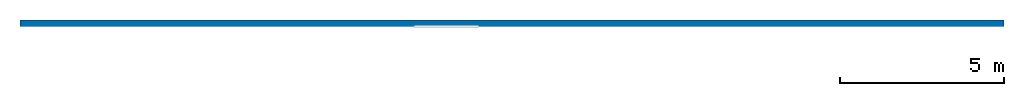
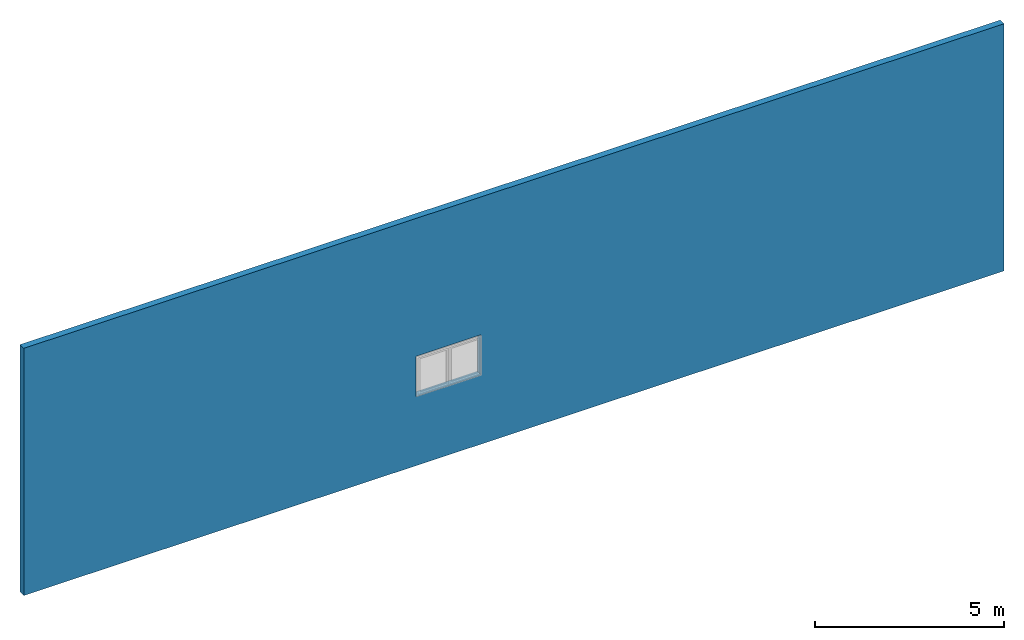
# One storey, part 1 of 2: 1 wall, 1 opening.
"""IFC2X3 building model written with IfcOpenShell, lengths in millimetres."""

import ifcopenshell
import ifcopenshell.guid

model = None  # the IFC model being written
_history = None  # IfcOwnerHistory: only IFC2X3 demands one
_inside = {}  # id of a spatial element -> (the spatial element, [elements in it])
_under = {}  # id of a project, library or spatial element -> (it, [spatial elements below it])
_declared = {}  # id of a project -> (the project, [libraries it declares])
_typed = {}  # id of a type object -> (the type object, [elements of that type])
_made_of = {}  # id of a material, layer set ... -> (it, [elements and type objects made of it])


def new_model(schema):
    """Start an empty IFC model of exactly this schema.

    Asked for "IFC4X3", IfcOpenShell would pick the latest addendum, in which some entities
    have other attributes; the version numbers below select the first issue.
    IFC2X3 requires an IfcOwnerHistory on every rooted entity: one is made here for all.
    """
    global model, _history
    if schema == "IFC4X3":
        model = ifcopenshell.file(schema_version=(4, 3, 0, 0))
    else:
        model = ifcopenshell.file(schema=schema)
    _inside.clear()
    _under.clear()
    _declared.clear()
    _typed.clear()
    _made_of.clear()
    _history = None
    if model.schema == "IFC2X3":
        org = make("IfcOrganization", Name="unknown")
        user = make(
            "IfcPersonAndOrganization",
            ThePerson=make("IfcPerson", FamilyName="unknown"),
            TheOrganization=org,
        )
        app = make(
            "IfcApplication",
            ApplicationDeveloper=org,
            Version="unknown",
            ApplicationFullName="unknown",
            ApplicationIdentifier="unknown",
        )
        _history = make(
            "IfcOwnerHistory",
            OwningUser=user,
            OwningApplication=app,
            ChangeAction="ADDED",
            CreationDate=0,
        )
    return model


def make(cls, **values):
    """One entity of the class cls with the attributes given. An attribute that is None is left unset."""
    return model.create_entity(
        cls, **{name: value for name, value in values.items() if value is not None}
    )


def entity(cls, *values):
    """Any entity or typed value of the class cls, its attributes in the order of the schema. None: left unset."""
    e = model.create_entity(cls)
    for i, value in enumerate(values):
        if value is not None:
            e[i] = value
    return e


def rooted(cls, **values):
    """An entity with a GlobalId (a new one), such as an element, a storey or a relation."""
    return make(cls, GlobalId=ifcopenshell.guid.new(), OwnerHistory=_history, **values)


def si_unit(unit_type, name, prefix=None):
    """IfcSIUnit, for example si_unit("LENGTHUNIT", "METRE", prefix="MILLI")."""
    return make("IfcSIUnit", UnitType=unit_type, Prefix=prefix, Name=name)


def converted_unit(unit_type, name, factor, base, dimensions=None, offset=None):
    """IfcConversionBasedUnit, such as the inch: factor (a typed value) times the base unit."""
    return make(
        "IfcConversionBasedUnit"
        if offset is None
        else "IfcConversionBasedUnitWithOffset",
        ConversionOffset=offset,
        Dimensions=None
        if dimensions is None
        else entity("IfcDimensionalExponents", *dimensions),
        UnitType=unit_type,
        Name=name,
        ConversionFactor=make(
            "IfcMeasureWithUnit", ValueComponent=factor, UnitComponent=base
        ),
    )


def derived_unit(unit_type, elements):
    """IfcDerivedUnit: a product of units, each with its exponent."""
    return make(
        "IfcDerivedUnit",
        Elements=[
            make("IfcDerivedUnitElement", Unit=unit, Exponent=power)
            for unit, power in elements
        ],
        UnitType=unit_type,
    )


def assignment(units):
    """IfcUnitAssignment: the units of a project."""
    return None if units is None else make("IfcUnitAssignment", Units=units)


def point(xyz):
    """IfcCartesianPoint."""
    return None if xyz is None else make("IfcCartesianPoint", Coordinates=xyz)


def direction(xyz):
    """IfcDirection."""
    return None if xyz is None else make("IfcDirection", DirectionRatios=xyz)


def frame(location, z_axis=None, x_axis=None):
    """IfcAxis2Placement3D, a coordinate frame: its origin and axes. An axis left out is left unset."""
    return make(
        "IfcAxis2Placement3D",
        Location=point(location),
        Axis=direction(z_axis),
        RefDirection=direction(x_axis),
    )


def frame_2d(location, x_axis=None):
    """IfcAxis2Placement2D, a coordinate frame in the plane: its origin and x axis."""
    return make(
        "IfcAxis2Placement2D", Location=point(location), RefDirection=direction(x_axis)
    )


def origin():
    """The frame at (0, 0, 0) with its axes left unset."""
    return frame((0.0, 0.0, 0.0))


def place(relative_to, where):
    """IfcLocalPlacement: puts the frame where relative to a parent placement (None: the world)."""
    return make(
        "IfcLocalPlacement", PlacementRelTo=relative_to, RelativePlacement=where
    )


def context(
    kind, dimensions, precision=None, world=None, true_north=None, identifier=None
):
    """IfcGeometricRepresentationContext, for example the 3D "Model" context."""
    return make(
        "IfcGeometricRepresentationContext",
        ContextIdentifier=identifier,
        ContextType=kind,
        CoordinateSpaceDimension=dimensions,
        Precision=precision,
        WorldCoordinateSystem=world,
        TrueNorth=true_north,
    )


def subcontext(parent, identifier, kind, view, scale=None):
    """IfcGeometricRepresentationSubContext, for example "Body" below "Model"."""
    return make(
        "IfcGeometricRepresentationSubContext",
        ContextIdentifier=identifier,
        ContextType=kind,
        ParentContext=parent,
        TargetScale=scale,
        TargetView=view,
    )


def project(units=None, contexts=None):
    """IfcProject with its units and contexts."""
    return rooted(
        "IfcProject",
        Name="project",
        RepresentationContexts=contexts,
        UnitsInContext=assignment(units),
    )


def spatial(cls, under=None, at=None, **own):
    """A site, building, storey or space (cls), placed at a placement, below another one or the project."""
    s = rooted(cls, ObjectPlacement=at, **own)
    if under is not None:
        _under.setdefault(under.id(), (under, []))[1].append(s)
    return s


def profile(cls, at=None, kind="AREA", **sizes):
    """A parametric profile (cls). Its sizes go by their IFC names, for example OverallWidth=200.0."""
    return make(cls, ProfileType=kind, Position=at, **sizes)


def rectangle(**sizes):
    """IfcRectangleProfileDef."""
    return profile("IfcRectangleProfileDef", **sizes)


def extrude(swept, where, along, depth):
    """IfcExtrudedAreaSolid: the profile swept, set in the frame where, extruded along a direction by depth."""
    return make(
        "IfcExtrudedAreaSolid",
        SweptArea=swept,
        Position=where,
        ExtrudedDirection=direction(along),
        Depth=depth,
    )


def shape(context_of_items, identifier, shape_type, items):
    """IfcShapeRepresentation: the items that make up one representation, for example the "Body"."""
    return make(
        "IfcShapeRepresentation",
        ContextOfItems=context_of_items,
        RepresentationIdentifier=identifier,
        RepresentationType=shape_type,
        Items=items,
    )


def material(Name=None, Category=None):
    """IfcMaterial."""
    return make("IfcMaterial", Name=Name, Category=Category)


def layer(
    of_material, thickness, ventilated=None, Name=None, Category=None, Priority=None
):
    """IfcMaterialLayer: one layer of a wall or slab, of a material (None: an air gap)."""
    return make(
        "IfcMaterialLayer",
        Material=of_material,
        LayerThickness=thickness,
        IsVentilated=ventilated,
        Name=Name,
        Category=Category,
        Priority=Priority,
    )


def layer_set(layers, Name=None):
    """IfcMaterialLayerSet."""
    return make("IfcMaterialLayerSet", MaterialLayers=layers, LayerSetName=Name)


def layer_usage(for_layer_set, set_direction, sense, offset, extent=None):
    """IfcMaterialLayerSetUsage: how a layer set lies in its element."""
    return make(
        "IfcMaterialLayerSetUsage",
        ForLayerSet=for_layer_set,
        LayerSetDirection=set_direction,
        DirectionSense=sense,
        OffsetFromReferenceLine=offset,
        ReferenceExtent=extent,
    )


def made_of(thing, what):
    """Note that an element or type object is made of a material, layer set ...; save() writes the relation."""
    if what is not None:
        _made_of.setdefault(what.id(), (what, []))[1].append(thing)
    return thing


def type_object(cls, material=None, **own):
    """A type object (cls), such as IfcWallType, which elements share."""
    return made_of(rooted(cls, **own), material)


def element(
    cls,
    number,
    at=None,
    inside=None,
    cuts=None,
    type_object=None,
    material=None,
    context=None,
    identifier="Body",
    shape_type=None,
    held_by="IfcProductDefinitionShape",
    body=None,
    shapes=None,
    **own,
):
    """One element of the class cls, such as IfcWall. Its Tag is "e" and its number.

    at: its placement. inside: the storey or other place that contains it. cuts: it is an
    opening in that element (IfcRelVoidsElement). A single representation is given by context,
    identifier, shape_type and body (its items); several are given by shapes. held_by: the class
    of the entity that holds the representations. save() writes the other relations.
    """
    e = rooted(cls, Tag="e%d" % number, ObjectPlacement=at, **own)
    if body is not None:
        shapes = [shape(context, identifier, shape_type, body)]
    if shapes is not None:
        e.Representation = make(held_by, Representations=shapes)
    if inside is not None:
        _inside.setdefault(inside.id(), (inside, []))[1].append(e)
    if cuts is not None:
        rooted(
            "IfcRelVoidsElement", RelatingBuildingElement=cuts, RelatedOpeningElement=e
        )
    if type_object is not None:
        _typed.setdefault(type_object.id(), (type_object, []))[1].append(e)
    return made_of(e, material)


def aggregate(whole, parts):
    """IfcRelAggregates: a whole, such as a stair, and the parts it consists of."""
    return rooted("IfcRelAggregates", RelatingObject=whole, RelatedObjects=parts)


def save(model, path):
    """Write the relations noted so far, then the file.

    IfcRelAggregates (storeys below a building ...), IfcRelContainedInSpatialStructure (elements
    in a storey), IfcRelDefinesByType, IfcRelAssociatesMaterial and IfcRelDeclares: one each for
    every whole, place, type object, material and project.
    """
    for whole, parts in _under.values():
        aggregate(whole, parts)
    for where, things in _inside.values():
        rooted(
            "IfcRelContainedInSpatialStructure",
            RelatedElements=things,
            RelatingStructure=where,
        )
    for kind, things in _typed.values():
        rooted("IfcRelDefinesByType", RelatedObjects=things, RelatingType=kind)
    for what, things in _made_of.values():
        rooted("IfcRelAssociatesMaterial", RelatedObjects=things, RelatingMaterial=what)
    for by, libraries in _declared.values():
        rooted("IfcRelDeclares", RelatingContext=by, RelatedDefinitions=libraries)
    model.write(path)


model = new_model("IFC2X3")

# Units and contexts
model_context = context("Model", 3, precision=0.01, world=origin(), true_north=direction((6.12303176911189e-17, 1.0)))
body_context = subcontext(model_context, "Body", "Model", "MODEL_VIEW")
ifc_project = project(units=[si_unit("LENGTHUNIT", "METRE", prefix="MILLI"), si_unit("AREAUNIT", "SQUARE_METRE"), si_unit("VOLUMEUNIT", "CUBIC_METRE"), converted_unit("PLANEANGLEUNIT", "DEGREE", entity("IfcRatioMeasure", 0.0174532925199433), si_unit("PLANEANGLEUNIT", "RADIAN"), dimensions=[0, 0, 0, 0, 0, 0, 0]), si_unit("MASSUNIT", "GRAM", prefix="KILO"), derived_unit("MASSDENSITYUNIT", [(si_unit("MASSUNIT", "GRAM", prefix="KILO"), 1), (si_unit("LENGTHUNIT", "METRE"), -3)]), si_unit("TIMEUNIT", "SECOND"), si_unit("FREQUENCYUNIT", "HERTZ"), si_unit("THERMODYNAMICTEMPERATUREUNIT", "DEGREE_CELSIUS"), derived_unit("THERMALTRANSMITTANCEUNIT", [(si_unit("MASSUNIT", "GRAM", prefix="KILO"), 1), (si_unit("THERMODYNAMICTEMPERATUREUNIT", "KELVIN"), -1), (si_unit("TIMEUNIT", "SECOND"), -3)]), derived_unit("VOLUMETRICFLOWRATEUNIT", [(si_unit("LENGTHUNIT", "METRE"), 3), (si_unit("TIMEUNIT", "SECOND"), -1)]), si_unit("ELECTRICCURRENTUNIT", "AMPERE"), si_unit("ELECTRICVOLTAGEUNIT", "VOLT"), si_unit("POWERUNIT", "WATT"), si_unit("FORCEUNIT", "NEWTON", prefix="KILO"), si_unit("ILLUMINANCEUNIT", "LUX"), si_unit("LUMINOUSFLUXUNIT", "LUMEN"), si_unit("LUMINOUSINTENSITYUNIT", "CANDELA"), derived_unit("USERDEFINED", [(si_unit("MASSUNIT", "GRAM", prefix="KILO"), -1), (si_unit("LENGTHUNIT", "METRE"), -2), (si_unit("TIMEUNIT", "SECOND"), 3), (si_unit("LUMINOUSFLUXUNIT", "LUMEN"), 1)]), derived_unit("LINEARVELOCITYUNIT", [(si_unit("LENGTHUNIT", "METRE"), 1), (si_unit("TIMEUNIT", "SECOND"), -1)]), si_unit("PRESSUREUNIT", "PASCAL"), derived_unit("USERDEFINED", [(si_unit("LENGTHUNIT", "METRE"), -2), (si_unit("MASSUNIT", "GRAM", prefix="KILO"), 1), (si_unit("TIMEUNIT", "SECOND"), -2)])], contexts=[model_context])

# Site, building, storey
site_placement = place(None, origin())
site = spatial("IfcSite", under=ifc_project, at=site_placement, Name="Default", CompositionType="ELEMENT")
building_placement = place(site_placement, origin())
building = spatial("IfcBuilding", under=site, at=building_placement, CompositionType="ELEMENT")
storey_placement = place(building_placement, origin())
storey = spatial("IfcBuildingStorey", under=building, at=storey_placement, Name="Nivel 1", CompositionType="ELEMENT", Elevation=0.0)

# Wall, opening
ifc_material = material(Name="Muro por defecto")
ifc_layer = layer(ifc_material, 200.0)
ifc_layer_set = layer_set([ifc_layer], Name="Muro básico:Genérico - 200 mm")
ifc_layer_usage = layer_usage(ifc_layer_set, "AXIS2", "NEGATIVE", 100.0)
wall_type = type_object("IfcWallType", Name="Muro básico:Genérico - 200 mm", PredefinedType="STANDARD", material=ifc_layer_set)
wall_placement = place(storey_placement, frame((-13827.3419101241, 509.829542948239, 0.0)))
wall = element("IfcWallStandardCase", 1, at=wall_placement, inside=storey, type_object=wall_type, material=ifc_layer_usage, Name="Muro básico:Genérico - 200 mm", ObjectType="Muro básico:Genérico - 200 mm:398", context=body_context, shape_type="SweptSolid", body=[
    extrude(rectangle(XDim=30000.0, YDim=200.0, at=frame_2d((15000.0, 2.1316282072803e-14), x_axis=(-1.0, 0.0))), origin(), (0.0, 0.0, 1.0), 8000.0),
])
opening_placement = place(wall_placement, origin())
element("IfcOpeningElement", 2, at=opening_placement, cuts=wall, Name="Muro básico:Genérico - 200 mm", ObjectType="Opening", context=body_context, shape_type="SweptSolid", body=[
    extrude(rectangle(XDim=1299.99999999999, YDim=2000.0, at=frame_2d((0.0, -1.13686837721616e-13), x_axis=(0.0, 1.0))), frame((13000.0, -1424.0, 2888.77992740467), z_axis=(0.0, 1.0, 0.0), x_axis=(-1.0, 0.0, 0.0)), (0.0, 0.0, 1.0), 3048.0),
])

save(model, "model.ifc")
